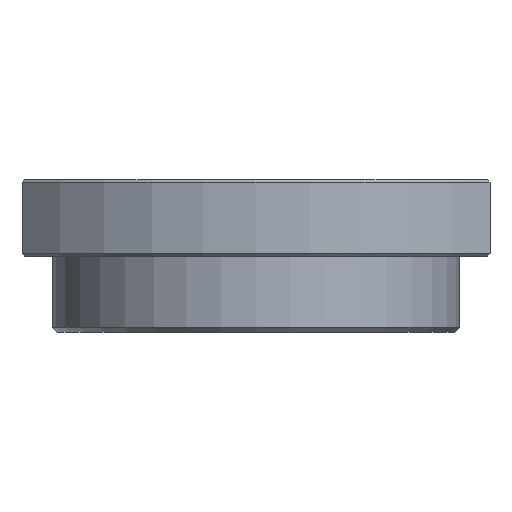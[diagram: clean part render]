
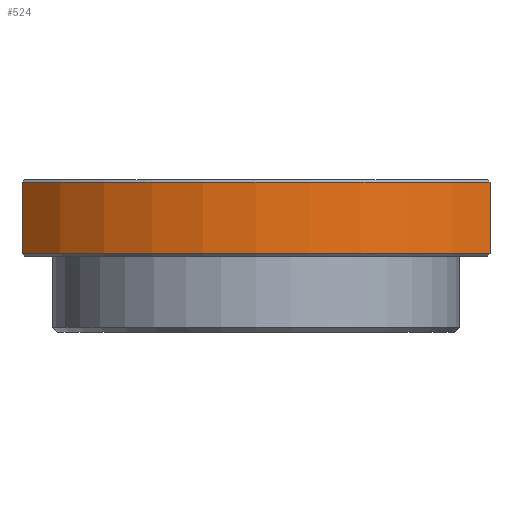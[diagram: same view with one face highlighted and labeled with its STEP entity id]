
A CAD part, left-side view. The second image highlights one B-rep face of the part: STEP entity #524.
In plain terms, the highlighted cylindrical face has radius 61 mm (diameter 122 mm), a partial arc.
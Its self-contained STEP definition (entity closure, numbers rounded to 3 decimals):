
#314 = FACE_OUTER_BOUND ( 'NONE', #1047, .T. ) ;
#382 = DIRECTION ( 'NONE',  ( 0., 1., 0. ) ) ;
#444 = CARTESIAN_POINT ( 'NONE',  ( -40.062, 46., 0.5 ) ) ;
#455 = EDGE_CURVE ( 'NONE', #595, #2661, #2795, .T. ) ;
#481 = AXIS2_PLACEMENT_3D ( 'NONE', #2778, #2500, #382 ) ;
#524 = ADVANCED_FACE ( 'NONE', ( #314 ), #926, .T. ) ;
#595 = VERTEX_POINT ( 'NONE', #3236 ) ;
#878 = VERTEX_POINT ( 'NONE', #3278 ) ;
#926 = CYLINDRICAL_SURFACE ( 'NONE', #1224, 61. ) ;
#931 = DIRECTION ( 'NONE',  ( 0., 0., 1. ) ) ;
#1047 = EDGE_LOOP ( 'NONE', ( #3598, #2825, #2040, #3513 ) ) ;
#1224 = AXIS2_PLACEMENT_3D ( 'NONE', #3226, #1445, #2051 ) ;
#1445 = DIRECTION ( 'NONE',  ( 0., 0., -1. ) ) ;
#1471 = CARTESIAN_POINT ( 'NONE',  ( -40.062, 46., 14.5 ) ) ;
#1750 = VERTEX_POINT ( 'NONE', #444 ) ;
#1776 = DIRECTION ( 'NONE',  ( 0., 0., 1. ) ) ;
#2040 = ORIENTED_EDGE ( 'NONE', *, *, #2067, .F. ) ;
#2051 = DIRECTION ( 'NONE',  ( 0., -1., 0. ) ) ;
#2067 = EDGE_CURVE ( 'NONE', #1750, #2661, #3763, .T. ) ;
#2096 = LINE ( 'NONE', #3455, #3441 ) ;
#2403 = CARTESIAN_POINT ( 'NONE',  ( 0., 0., 0.5 ) ) ;
#2500 = DIRECTION ( 'NONE',  ( 0., 0., -1. ) ) ;
#2661 = VERTEX_POINT ( 'NONE', #1471 ) ;
#2778 = CARTESIAN_POINT ( 'NONE',  ( 0., 0., 14.5 ) ) ;
#2795 = CIRCLE ( 'NONE', #481, 61. ) ;
#2825 = ORIENTED_EDGE ( 'NONE', *, *, #455, .T. ) ;
#2884 = EDGE_CURVE ( 'NONE', #1750, #878, #3107, .T. ) ;
#3107 = CIRCLE ( 'NONE', #3873, 61. ) ;
#3226 = CARTESIAN_POINT ( 'NONE',  ( 0., 0., 15. ) ) ;
#3236 = CARTESIAN_POINT ( 'NONE',  ( -40.062, -46., 14.5 ) ) ;
#3278 = CARTESIAN_POINT ( 'NONE',  ( -40.062, -46., 0.5 ) ) ;
#3318 = DIRECTION ( 'NONE',  ( 0., -1., 0. ) ) ;
#3432 = DIRECTION ( 'NONE',  ( 0., 0., -1. ) ) ;
#3441 = VECTOR ( 'NONE', #3432, 1000. ) ;
#3445 = VECTOR ( 'NONE', #1776, 1000. ) ;
#3455 = CARTESIAN_POINT ( 'NONE',  ( -40.062, -46., 15. ) ) ;
#3513 = ORIENTED_EDGE ( 'NONE', *, *, #2884, .T. ) ;
#3592 = EDGE_CURVE ( 'NONE', #595, #878, #2096, .T. ) ;
#3598 = ORIENTED_EDGE ( 'NONE', *, *, #3592, .F. ) ;
#3763 = LINE ( 'NONE', #3837, #3445 ) ;
#3837 = CARTESIAN_POINT ( 'NONE',  ( -40.062, 46., 15. ) ) ;
#3873 = AXIS2_PLACEMENT_3D ( 'NONE', #2403, #931, #3318 ) ;
